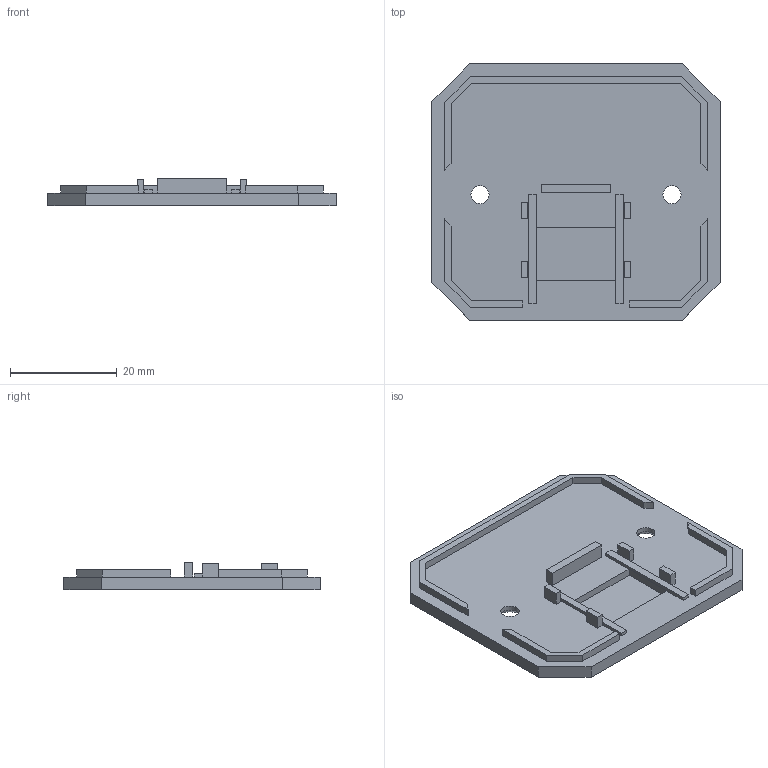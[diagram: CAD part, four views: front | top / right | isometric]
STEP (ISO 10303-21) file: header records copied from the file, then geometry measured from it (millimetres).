
FILE_DESCRIPTION(('Open CASCADE Model'),'2;1');
FILE_NAME('Open CASCADE Shape Model','2026-09-28T16:03:24',('Author'),( 'Open CASCADE'),'Open CASCADE STEP processor 7.9','Open CASCADE 7.9' ,'Unknown');
FILE_SCHEMA(('AUTOMOTIVE_DESIGN { 1 0 10303 214 1 1 1 1 }'));
Length unit declared in the file: millimetre
Products named in the file (1): Open CASCADE STEP translator 7.9 2
Bounding box: 54 x 48 x 5.2 mm (x, y, z)
Volume: 6039.4 mm3; surface area: 6105.7 mm2
Topology: 1 solids, 1 shells, 87 faces, 222 edges, 146 vertices
Faces by surface type: plane 79, cylinder 6, cone 2
Full cylindrical faces by diameter (mm): 3.4 x2
Entity records: 5447 total; most frequent: CARTESIAN_POINT 1029, DIRECTION 777, LINE 571, VECTOR 571, ORIENTED_EDGE 444, PCURVE 444, DEFINITIONAL_REPRESENTATION 444, EDGE_CURVE 222
